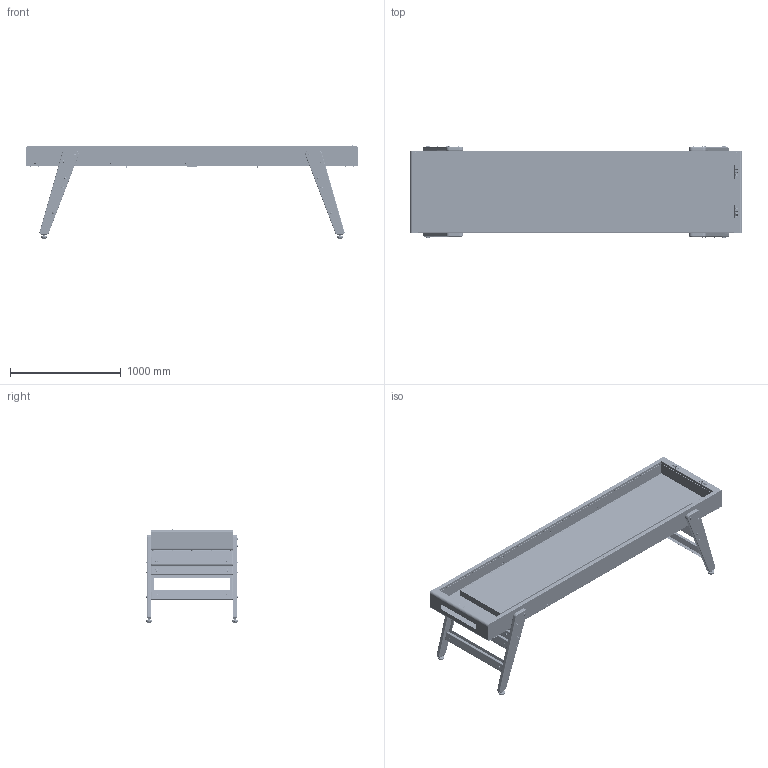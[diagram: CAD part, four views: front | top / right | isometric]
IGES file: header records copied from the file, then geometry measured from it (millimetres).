
Start section: START RECORD GO HERE.
Global section: file name: RS_SHU_9.igs; native system: DASSAULT SYSTEMES CATIA Version 5-6 Release 2017 - www.3ds.com; preprocessor: V5-6R2017_5.27.0.0.10-19-2016.20.00; author: ingenieria; organization: RAFA-PC; date: 20231117.122248; units: millimetre
Bounding box: 2991.4 x 833.4 x 838.14 mm (x, y, z)
Surface area: 26985433.7 mm2 (no closed solid volume)
Topology: 0 solids, 0 shells, 7999 faces, 39332 edges, 39332 vertices
Faces by surface type: plane 4411, revolution 3356, bspline 232
